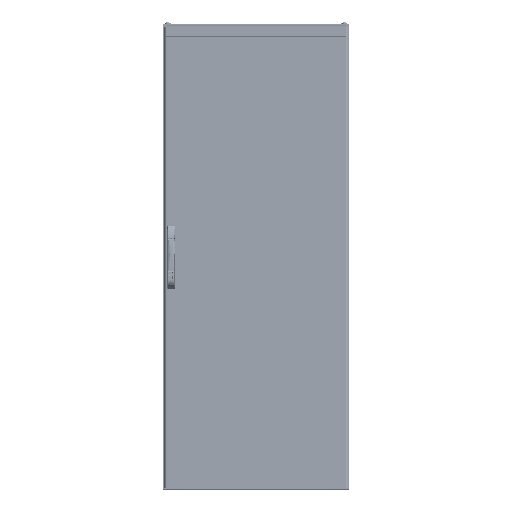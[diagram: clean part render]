
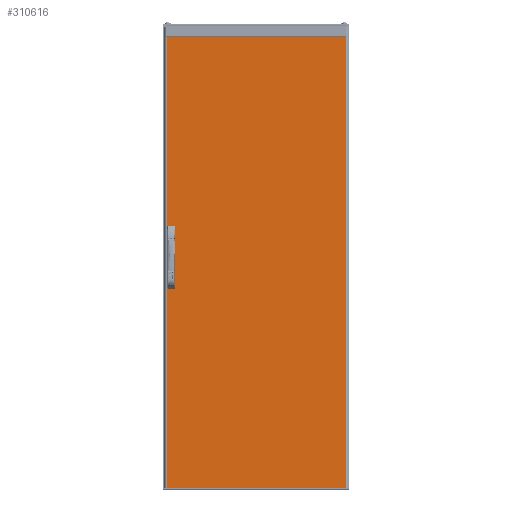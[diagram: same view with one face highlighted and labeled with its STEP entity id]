
A CAD part, top view. The second image highlights one B-rep face of the part: STEP entity #310616.
In plain terms, the highlighted planar face has unit normal (0, 0, 1) as drawn and (0, -1, 0) by its records, which use the part's own axes.
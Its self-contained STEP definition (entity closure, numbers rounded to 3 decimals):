
#1118 = EDGE_LOOP ( 'NONE', ( #304611, #265373 ) ) ;
#1509 = EDGE_LOOP ( 'NONE', ( #280950, #113458 ) ) ;
#3153 = DIRECTION ( 'NONE',  ( 0., 1., 0. ) ) ;
#11291 = CARTESIAN_POINT ( 'NONE',  ( 0., 0., 0. ) ) ;
#12057 = FACE_BOUND ( 'NONE', #128212, .T. ) ;
#12200 = CARTESIAN_POINT ( 'NONE',  ( 0., 0., -771.9 ) ) ;
#15681 = CARTESIAN_POINT ( 'NONE',  ( 0., 0., 0. ) ) ;
#16839 = ORIENTED_EDGE ( 'NONE', *, *, #253395, .T. ) ;
#25507 = DIRECTION ( 'NONE',  ( 0., -1., 0. ) ) ;
#27862 = DIRECTION ( 'NONE',  ( 0., 0., 1. ) ) ;
#29039 = CARTESIAN_POINT ( 'NONE',  ( 1983., 0., 0. ) ) ;
#30136 = VERTEX_POINT ( 'NONE', #258018 ) ;
#30513 = DIRECTION ( 'NONE',  ( 0., 0., 1. ) ) ;
#33453 = CARTESIAN_POINT ( 'NONE',  ( 1983., 0., 0. ) ) ;
#33990 = LINE ( 'NONE', #249082, #92452 ) ;
#35242 = VECTOR ( 'NONE', #248529, 1000. ) ;
#41159 = DIRECTION ( 'NONE',  ( 1., 0., 0. ) ) ;
#42890 = VERTEX_POINT ( 'NONE', #29039 ) ;
#44483 = EDGE_CURVE ( 'NONE', #330515, #85037, #132771, .T. ) ;
#48823 = ORIENTED_EDGE ( 'NONE', *, *, #100983, .F. ) ;
#56937 = VECTOR ( 'NONE', #157116, 1000. ) ;
#58746 = CARTESIAN_POINT ( 'NONE',  ( 876.498, 0., -18.895 ) ) ;
#60668 = AXIS2_PLACEMENT_3D ( 'NONE', #165330, #3153, #27862 ) ;
#61374 = EDGE_CURVE ( 'NONE', #330515, #297016, #219205, .T. ) ;
#64529 = CARTESIAN_POINT ( 'NONE',  ( 958.75, 0., -14.645 ) ) ;
#64733 = DIRECTION ( 'NONE',  ( 0., 0., 1. ) ) ;
#66748 = FACE_BOUND ( 'NONE', #1118, .T. ) ;
#67100 = DIRECTION ( 'NONE',  ( 0., 0., 1. ) ) ;
#70085 = DIRECTION ( 'NONE',  ( 0., 0., 1. ) ) ;
#70873 = CARTESIAN_POINT ( 'NONE',  ( 958.75, 0., -18.895 ) ) ;
#83225 = EDGE_CURVE ( 'NONE', #297016, #42890, #282676, .T. ) ;
#83496 = DIRECTION ( 'NONE',  ( 0., 1., 0. ) ) ;
#84472 = AXIS2_PLACEMENT_3D ( 'NONE', #70873, #206532, #308836 ) ;
#85037 = VERTEX_POINT ( 'NONE', #12200 ) ;
#87033 = CARTESIAN_POINT ( 'NONE',  ( 0., 0., 0. ) ) ;
#89262 = DIRECTION ( 'NONE',  ( 0., 0., -1. ) ) ;
#92452 = VECTOR ( 'NONE', #169764, 1000. ) ;
#100121 = ORIENTED_EDGE ( 'NONE', *, *, #61374, .F. ) ;
#100983 = EDGE_CURVE ( 'NONE', #42890, #201081, #220345, .T. ) ;
#104241 = LINE ( 'NONE', #345695, #56937 ) ;
#105636 = VERTEX_POINT ( 'NONE', #162889 ) ;
#106616 = DIRECTION ( 'NONE',  ( 0., 0., -1. ) ) ;
#109974 = DIRECTION ( 'NONE',  ( 0., 0., 1. ) ) ;
#113458 = ORIENTED_EDGE ( 'NONE', *, *, #252340, .T. ) ;
#115729 = EDGE_CURVE ( 'NONE', #268794, #105636, #190877, .T. ) ;
#121417 = CARTESIAN_POINT ( 'NONE',  ( 876.498, 0., -21.745 ) ) ;
#122699 = CARTESIAN_POINT ( 'NONE',  ( 1106.5, 0., -21.745 ) ) ;
#126412 = CARTESIAN_POINT ( 'NONE',  ( 0., 0., 0. ) ) ;
#127579 = VERTEX_POINT ( 'NONE', #329574 ) ;
#128212 = EDGE_LOOP ( 'NONE', ( #16839, #207147, #241768, #215911 ) ) ;
#130143 = EDGE_CURVE ( 'NONE', #245323, #275048, #301556, .T. ) ;
#132771 = LINE ( 'NONE', #240263, #309667 ) ;
#135024 = CIRCLE ( 'NONE', #84472, 4.25 ) ;
#142324 = DIRECTION ( 'NONE',  ( 0., 1., 0. ) ) ;
#145361 = CARTESIAN_POINT ( 'NONE',  ( 958.75, 0., -14.645 ) ) ;
#147847 = ORIENTED_EDGE ( 'NONE', *, *, #217926, .F. ) ;
#149387 = VECTOR ( 'NONE', #41159, 1000. ) ;
#149630 = AXIS2_PLACEMENT_3D ( 'NONE', #58746, #83496, #30513 ) ;
#154873 = EDGE_CURVE ( 'NONE', #105636, #268794, #207094, .T. ) ;
#157116 = DIRECTION ( 'NONE',  ( 0., 0., 1. ) ) ;
#162040 = VECTOR ( 'NONE', #89262, 1000. ) ;
#162889 = CARTESIAN_POINT ( 'NONE',  ( 1106.5, 0., -16.045 ) ) ;
#165330 = CARTESIAN_POINT ( 'NONE',  ( 1106.5, 0., -18.895 ) ) ;
#168351 = VERTEX_POINT ( 'NONE', #324660 ) ;
#169272 = ORIENTED_EDGE ( 'NONE', *, *, #44483, .T. ) ;
#169442 = LINE ( 'NONE', #276960, #302865 ) ;
#169764 = DIRECTION ( 'NONE',  ( -1., 0., 0. ) ) ;
#171792 = EDGE_CURVE ( 'NONE', #229741, #201081, #104241, .T. ) ;
#174226 = FACE_BOUND ( 'NONE', #1509, .T. ) ;
#174605 = EDGE_LOOP ( 'NONE', ( #147847, #217207, #340902, #208525, #48823, #289145, #100121, #169272 ) ) ;
#178528 = CIRCLE ( 'NONE', #274154, 4.25 ) ;
#179566 = AXIS2_PLACEMENT_3D ( 'NONE', #230612, #182946, #205928 ) ;
#182465 = CARTESIAN_POINT ( 'NONE',  ( 0., 0., -772. ) ) ;
#182863 = AXIS2_PLACEMENT_3D ( 'NONE', #225116, #142324, #64733 ) ;
#182946 = DIRECTION ( 'NONE',  ( 0., 1., 0. ) ) ;
#190877 = CIRCLE ( 'NONE', #179566, 2.85 ) ;
#191723 = CARTESIAN_POINT ( 'NONE',  ( 1983., 0., -771.9 ) ) ;
#199315 = DIRECTION ( 'NONE',  ( 0., 1., 0. ) ) ;
#199741 = CIRCLE ( 'NONE', #182863, 2.85 ) ;
#201081 = VERTEX_POINT ( 'NONE', #204517 ) ;
#202024 = VERTEX_POINT ( 'NONE', #64529 ) ;
#204517 = CARTESIAN_POINT ( 'NONE',  ( 1983., 0., -0.1 ) ) ;
#205928 = DIRECTION ( 'NONE',  ( 0., 0., 1. ) ) ;
#206532 = DIRECTION ( 'NONE',  ( 0., 1., 0. ) ) ;
#207094 = CIRCLE ( 'NONE', #60668, 2.85 ) ;
#207147 = ORIENTED_EDGE ( 'NONE', *, *, #296683, .T. ) ;
#208525 = ORIENTED_EDGE ( 'NONE', *, *, #171792, .T. ) ;
#213085 = VERTEX_POINT ( 'NONE', #217729 ) ;
#213751 = VECTOR ( 'NONE', #109974, 1000. ) ;
#215911 = ORIENTED_EDGE ( 'NONE', *, *, #284073, .T. ) ;
#217207 = ORIENTED_EDGE ( 'NONE', *, *, #217962, .F. ) ;
#217729 = CARTESIAN_POINT ( 'NONE',  ( 1983., 0., -772. ) ) ;
#217926 = EDGE_CURVE ( 'NONE', #127579, #85037, #292024, .T. ) ;
#217962 = EDGE_CURVE ( 'NONE', #213085, #127579, #33990, .T. ) ;
#219205 = LINE ( 'NONE', #87033, #213751 ) ;
#220345 = LINE ( 'NONE', #33453, #35242 ) ;
#222937 = LINE ( 'NONE', #145361, #313298 ) ;
#225116 = CARTESIAN_POINT ( 'NONE',  ( 876.498, 0., -18.895 ) ) ;
#229230 = CARTESIAN_POINT ( 'NONE',  ( 1024.25, 0., -18.895 ) ) ;
#229741 = VERTEX_POINT ( 'NONE', #191723 ) ;
#230612 = CARTESIAN_POINT ( 'NONE',  ( 1106.5, 0., -18.895 ) ) ;
#231507 = EDGE_CURVE ( 'NONE', #229741, #213085, #323730, .T. ) ;
#240263 = CARTESIAN_POINT ( 'NONE',  ( 0., 0., -0.1 ) ) ;
#241768 = ORIENTED_EDGE ( 'NONE', *, *, #243495, .T. ) ;
#243495 = EDGE_CURVE ( 'NONE', #287825, #168351, #178528, .T. ) ;
#245323 = VERTEX_POINT ( 'NONE', #286972 ) ;
#248529 = DIRECTION ( 'NONE',  ( 0., 0., -1. ) ) ;
#249082 = CARTESIAN_POINT ( 'NONE',  ( 0., 0., -772. ) ) ;
#252340 = EDGE_CURVE ( 'NONE', #275048, #245323, #199741, .T. ) ;
#253395 = EDGE_CURVE ( 'NONE', #30136, #202024, #135024, .T. ) ;
#255623 = AXIS2_PLACEMENT_3D ( 'NONE', #182465, #25507, #106616 ) ;
#257599 = DIRECTION ( 'NONE',  ( 1., 0., 0. ) ) ;
#258018 = CARTESIAN_POINT ( 'NONE',  ( 958.75, 0., -23.145 ) ) ;
#265373 = ORIENTED_EDGE ( 'NONE', *, *, #115729, .T. ) ;
#268794 = VERTEX_POINT ( 'NONE', #122699 ) ;
#274154 = AXIS2_PLACEMENT_3D ( 'NONE', #229230, #199315, #67100 ) ;
#274808 = PLANE ( 'NONE',  #255623 ) ;
#275048 = VERTEX_POINT ( 'NONE', #121417 ) ;
#276960 = CARTESIAN_POINT ( 'NONE',  ( 958.75, 0., -23.145 ) ) ;
#280950 = ORIENTED_EDGE ( 'NONE', *, *, #130143, .T. ) ;
#281742 = FACE_OUTER_BOUND ( 'NONE', #174605, .T. ) ;
#282676 = LINE ( 'NONE', #11291, #149387 ) ;
#283893 = VECTOR ( 'NONE', #70085, 1000. ) ;
#284073 = EDGE_CURVE ( 'NONE', #168351, #30136, #169442, .T. ) ;
#286972 = CARTESIAN_POINT ( 'NONE',  ( 876.498, 0., -16.045 ) ) ;
#287825 = VERTEX_POINT ( 'NONE', #339704 ) ;
#289145 = ORIENTED_EDGE ( 'NONE', *, *, #83225, .F. ) ;
#292024 = LINE ( 'NONE', #126412, #283893 ) ;
#296683 = EDGE_CURVE ( 'NONE', #202024, #287825, #222937, .T. ) ;
#297016 = VERTEX_POINT ( 'NONE', #15681 ) ;
#301556 = CIRCLE ( 'NONE', #149630, 2.85 ) ;
#302529 = CARTESIAN_POINT ( 'NONE',  ( 1983., 0., 0. ) ) ;
#302865 = VECTOR ( 'NONE', #336773, 1000. ) ;
#304611 = ORIENTED_EDGE ( 'NONE', *, *, #154873, .T. ) ;
#308836 = DIRECTION ( 'NONE',  ( 0., 0., 1. ) ) ;
#309667 = VECTOR ( 'NONE', #340846, 1000. ) ;
#310616 = ADVANCED_FACE ( 'NONE', ( #12057, #66748, #174226, #281742 ), #274808, .T. ) ;
#313298 = VECTOR ( 'NONE', #257599, 1000. ) ;
#323730 = LINE ( 'NONE', #302529, #162040 ) ;
#324660 = CARTESIAN_POINT ( 'NONE',  ( 1024.25, 0., -23.145 ) ) ;
#328870 = CARTESIAN_POINT ( 'NONE',  ( 0., 0., -0.1 ) ) ;
#329574 = CARTESIAN_POINT ( 'NONE',  ( 0., 0., -772. ) ) ;
#330515 = VERTEX_POINT ( 'NONE', #328870 ) ;
#336773 = DIRECTION ( 'NONE',  ( -1., 0., 0. ) ) ;
#339704 = CARTESIAN_POINT ( 'NONE',  ( 1024.25, 0., -14.645 ) ) ;
#340846 = DIRECTION ( 'NONE',  ( 0., 0., -1. ) ) ;
#340902 = ORIENTED_EDGE ( 'NONE', *, *, #231507, .F. ) ;
#345695 = CARTESIAN_POINT ( 'NONE',  ( 1983., 0., -771.9 ) ) ;
